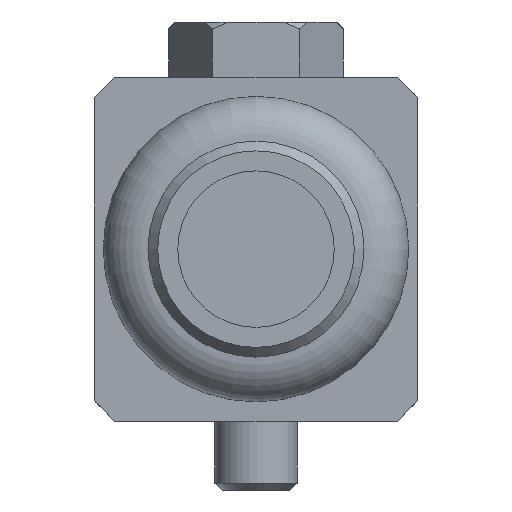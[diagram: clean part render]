
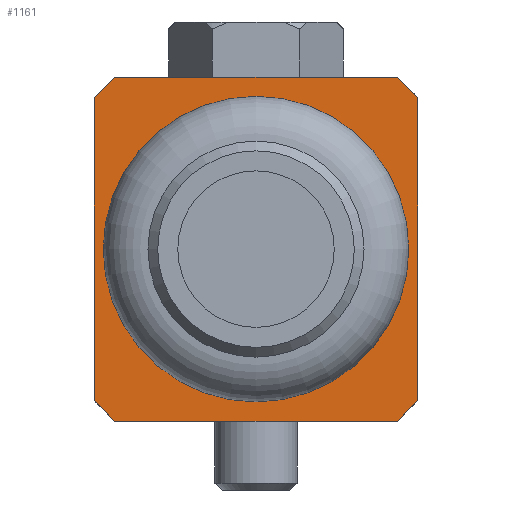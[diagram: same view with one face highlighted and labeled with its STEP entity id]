
A CAD part, front view. The second image highlights one B-rep face of the part: STEP entity #1161.
In plain terms, the highlighted planar face has unit normal (0, -1, 0).
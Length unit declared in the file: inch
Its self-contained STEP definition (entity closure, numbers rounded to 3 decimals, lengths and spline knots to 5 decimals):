
#65=FACE_BOUND('',#237,.T.);
#98=PLANE('',#1331);
#160=FACE_OUTER_BOUND('',#236,.T.);
#236=EDGE_LOOP('',(#987,#988,#989,#990,#991,#992,#993,#994));
#237=EDGE_LOOP('',(#995,#996));
#281=LINE('',#2015,#339);
#287=LINE('',#2027,#345);
#288=LINE('',#2030,#346);
#291=LINE('',#2039,#349);
#292=LINE('',#2042,#350);
#296=LINE('',#2068,#354);
#297=LINE('',#2072,#355);
#298=LINE('',#2073,#356);
#339=VECTOR('',#1621,0.3937);
#345=VECTOR('',#1629,0.3937);
#346=VECTOR('',#1632,0.3937);
#349=VECTOR('',#1641,0.3937);
#350=VECTOR('',#1646,0.3937);
#354=VECTOR('',#1676,0.3937);
#355=VECTOR('',#1681,0.3937);
#356=VECTOR('',#1682,0.3937);
#428=CIRCLE('',#1323,0.43701);
#429=CIRCLE('',#1324,0.43701);
#523=VERTEX_POINT('',#2011);
#525=VERTEX_POINT('',#2014);
#528=VERTEX_POINT('',#2021);
#530=VERTEX_POINT('',#2025);
#531=VERTEX_POINT('',#2029);
#534=VERTEX_POINT('',#2036);
#539=VERTEX_POINT('',#2053);
#540=VERTEX_POINT('',#2055);
#543=VERTEX_POINT('',#2066);
#544=VERTEX_POINT('',#2071);
#670=EDGE_CURVE('',#523,#525,#281,.T.);
#676=EDGE_CURVE('',#528,#530,#287,.T.);
#677=EDGE_CURVE('',#525,#531,#288,.T.);
#682=EDGE_CURVE('',#531,#534,#291,.T.);
#684=EDGE_CURVE('',#534,#530,#292,.T.);
#690=EDGE_CURVE('',#540,#539,#428,.T.);
#691=EDGE_CURVE('',#539,#540,#429,.T.);
#696=EDGE_CURVE('',#543,#523,#296,.T.);
#698=EDGE_CURVE('',#528,#544,#297,.T.);
#699=EDGE_CURVE('',#543,#544,#298,.T.);
#987=ORIENTED_EDGE('',*,*,#698,.F.);
#988=ORIENTED_EDGE('',*,*,#676,.T.);
#989=ORIENTED_EDGE('',*,*,#684,.F.);
#990=ORIENTED_EDGE('',*,*,#682,.F.);
#991=ORIENTED_EDGE('',*,*,#677,.F.);
#992=ORIENTED_EDGE('',*,*,#670,.F.);
#993=ORIENTED_EDGE('',*,*,#696,.F.);
#994=ORIENTED_EDGE('',*,*,#699,.T.);
#995=ORIENTED_EDGE('',*,*,#690,.T.);
#996=ORIENTED_EDGE('',*,*,#691,.T.);
#1161=ADVANCED_FACE('',(#160,#65),#98,.T.);
#1323=AXIS2_PLACEMENT_3D('',#2056,#1660,#1661);
#1324=AXIS2_PLACEMENT_3D('',#2057,#1662,#1663);
#1331=AXIS2_PLACEMENT_3D('',#2070,#1679,#1680);
#1621=DIRECTION('',(0.,0.,1.));
#1629=DIRECTION('',(0.,0.,1.));
#1632=DIRECTION('',(0.707,0.,0.707));
#1641=DIRECTION('',(1.,0.,0.));
#1646=DIRECTION('',(0.707,0.,-0.707));
#1660=DIRECTION('center_axis',(0.,1.,0.));
#1661=DIRECTION('ref_axis',(0.581,0.,-0.814));
#1662=DIRECTION('center_axis',(0.,1.,0.));
#1663=DIRECTION('ref_axis',(0.581,0.,-0.814));
#1676=DIRECTION('',(-0.707,0.,0.707));
#1679=DIRECTION('center_axis',(0.,-1.,0.));
#1680=DIRECTION('ref_axis',(0.,0.,
-1.));
#1681=DIRECTION('',(-0.707,0.,-0.707));
#1682=DIRECTION('',(1.,0.,0.));
#2011=CARTESIAN_POINT('',(-1.92255,-1.68852,-0.11953));
#2014=CARTESIAN_POINT('',(-1.92255,-1.68852,0.74661));
#2015=CARTESIAN_POINT('',(-1.92255,-1.68852,-0.11953));
#2021=CARTESIAN_POINT('',(-0.99735,-1.68852,-0.11953));
#2025=CARTESIAN_POINT('',(-0.99735,-1.68852,0.74661));
#2027=CARTESIAN_POINT('',(-0.99735,-1.68852,-0.11953));
#2029=CARTESIAN_POINT('',(-1.86349,-1.68852,0.80566));
#2030=CARTESIAN_POINT('',(-1.92255,-1.68852,0.74661));
#2036=CARTESIAN_POINT('',(-1.05641,-1.68852,0.80566));
#2039=CARTESIAN_POINT('',(-1.86349,-1.68852,0.80566));
#2042=CARTESIAN_POINT('',(-1.05641,-1.68852,0.80566));
#2053=CARTESIAN_POINT('',(-1.45995,-1.68852,0.75055));
#2055=CARTESIAN_POINT('',(-1.45995,-1.68852,-0.12347));
#2056=CARTESIAN_POINT('Origin',(-1.45995,-1.68852,0.31354));
#2057=CARTESIAN_POINT('Origin',(-1.45995,-1.68852,0.31354));
#2066=CARTESIAN_POINT('',(-1.86349,-1.68852,-0.17859));
#2068=CARTESIAN_POINT('',(-1.86349,-1.68852,-0.17859));
#2070=CARTESIAN_POINT('Origin',(-1.45995,-1.68852,-0.17863));
#2071=CARTESIAN_POINT('',(-1.05641,-1.68852,-0.17859));
#2072=CARTESIAN_POINT('',(-0.99735,-1.68852,-0.11953));
#2073=CARTESIAN_POINT('',(-1.86349,-1.68852,-0.17859));
